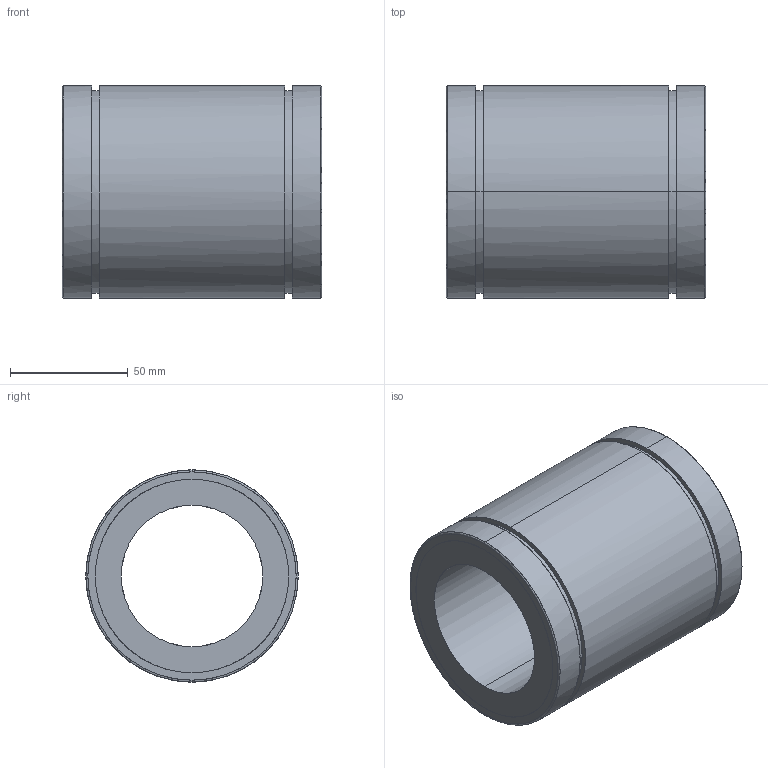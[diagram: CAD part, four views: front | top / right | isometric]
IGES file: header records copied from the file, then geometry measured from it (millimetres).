
Global section: file name: No Iges File Name specified; native system: AutoDesk Inventor R10; preprocessor: AutoDesk Inventor Iges Exporter R10; author: No Author specified; organization: No Organization specified; date: 20101208.095218; units: millimetre
Bounding box: 110 x 90 x 90 mm (x, y, z)
Surface area: 60877.1 mm2 (no closed solid volume)
Topology: 0 solids, 0 shells, 28 faces, 184 edges, 184 vertices
Faces by surface type: bspline 28
